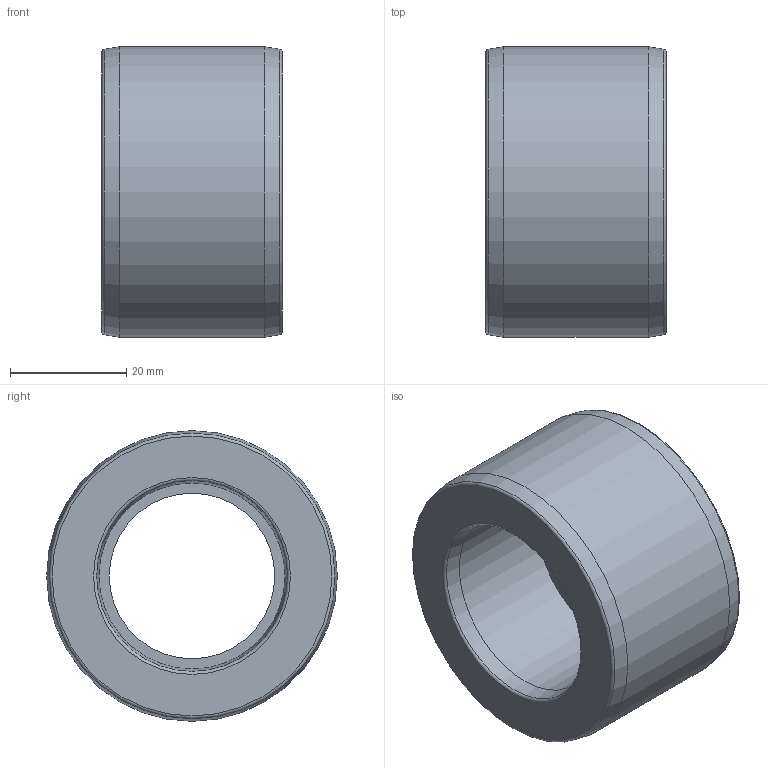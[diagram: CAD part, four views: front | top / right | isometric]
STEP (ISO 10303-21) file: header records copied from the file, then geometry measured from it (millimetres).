
FILE_DESCRIPTION(/* description */ ('PLASSON BUSHING-CEMENT PVC 50-32'),/* implementation_level */ '2;1');
FILE_NAME(/* name */ 'C:\Dropbox\KIMPROJECTS-Inventor\99-16-3568-Processing\PVC Catalog 2017\050900\050900050032.ipt.stp',/* time_stamp */ '2017-12-07T15:59:22+02:00',/* author */ ('KIM'),/* organization */ (''),/* preprocessor_version */ 'ST-DEVELOPER v15.6',/* originating_system */ 'Autodesk Inventor 2015',/* authorisation */ '');
FILE_SCHEMA (('AUTOMOTIVE_DESIGN { 1 0 10303 214 3 1 1 }'));
Length unit declared in the file: millimetre
Products named in the file (1): 050900050032
Bounding box: 31 x 50 x 50 mm (x, y, z)
Volume: 35578.3 mm3; surface area: 10054.1 mm2
Topology: 1 solids, 1 shells, 15 faces, 27 edges, 15 vertices
Faces by surface type: torus 5, cone 4, cylinder 3, plane 3
Full cylindrical faces by diameter (mm): 28.48 x1, 32 x1, 50 x1
Entity records: 332 total; most frequent: DIRECTION 62, CARTESIAN_POINT 46, AXIS2_PLACEMENT_3D 31, EDGE_LOOP 30, ORIENTED_EDGE 30, FACE_BOUND 15, FACE_OUTER_BOUND 15, CIRCLE 15
